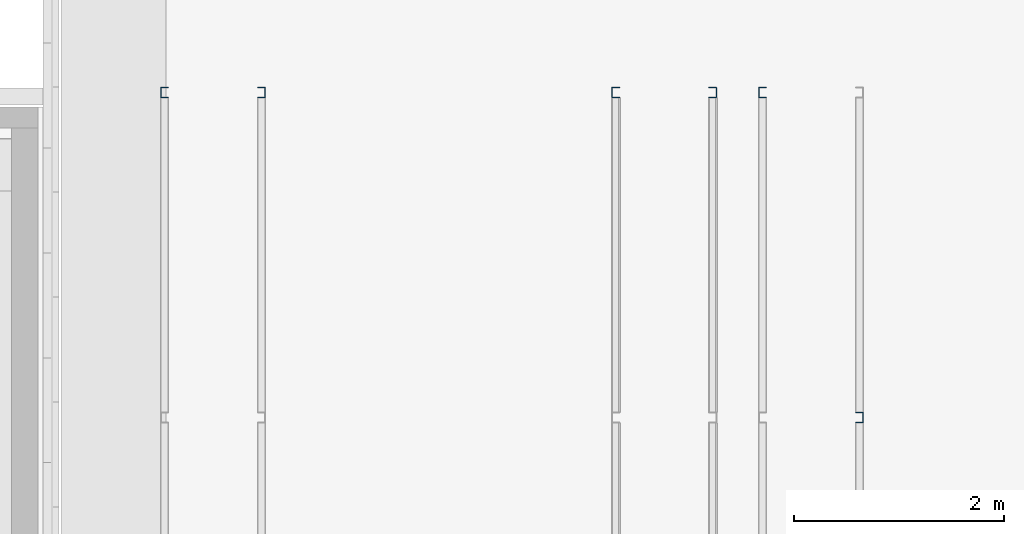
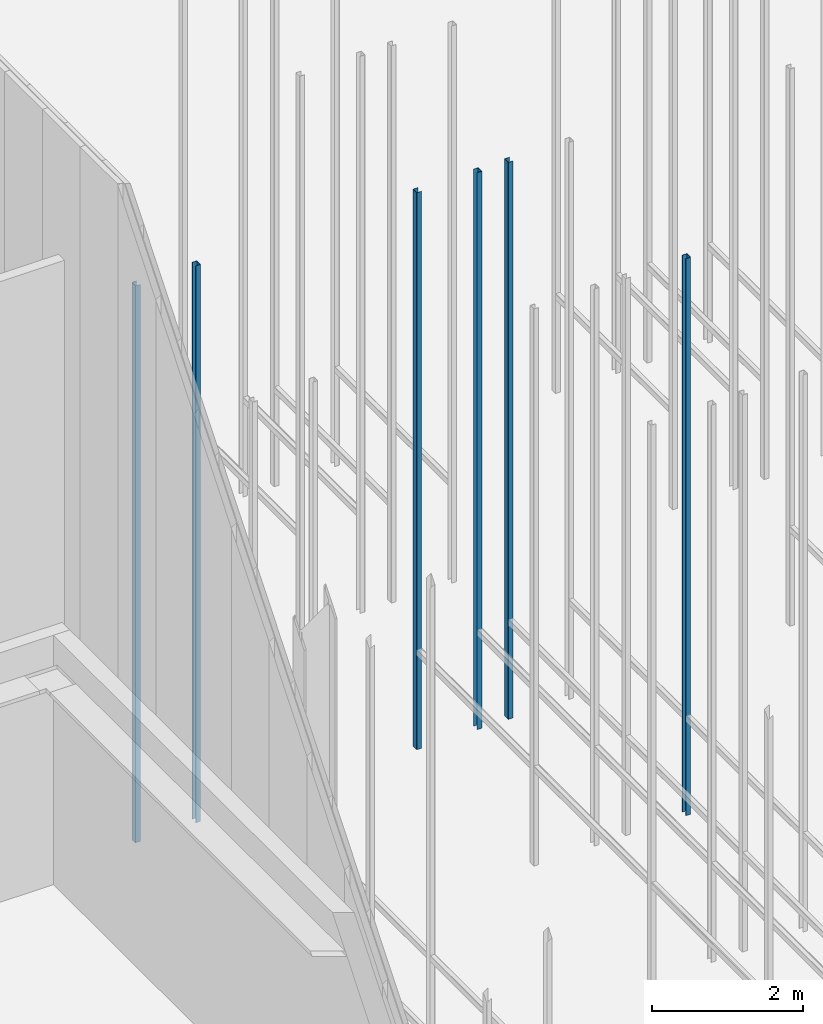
# One storey, part 22 of 302: 6 columns.
"""IFC2X3 building model written with IfcOpenShell, lengths in metres."""

from ifc_helpers import new_model, entity, si_unit, converted_unit, derived_unit, direction, frame, frame_2d, origin, place, context, subcontext, project, spatial, polyline, circle_curve, parameter, trimmed, segment, composite_curve, outline, extrude, source, transform, mapped, material, type_object, type_shapes, element, save


model = new_model("IFC2X3")

# Units and contexts
model_context = context("Model", 3, precision=1e-05, world=origin(), true_north=direction((6.12303176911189e-17, 1.0)))
body_context = subcontext(model_context, "Body", "Model", "MODEL_VIEW")
ifc_project = project(units=[si_unit("LENGTHUNIT", "METRE"), si_unit("AREAUNIT", "SQUARE_METRE"), si_unit("VOLUMEUNIT", "CUBIC_METRE"), converted_unit("PLANEANGLEUNIT", "DEGREE", entity("IfcRatioMeasure", 0.0174532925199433), si_unit("PLANEANGLEUNIT", "RADIAN"), dimensions=[0, 0, 0, 0, 0, 0, 0]), si_unit("MASSUNIT", "GRAM", prefix="KILO"), derived_unit("MASSDENSITYUNIT", [(si_unit("MASSUNIT", "GRAM", prefix="KILO"), 1), (si_unit("LENGTHUNIT", "METRE"), -3)]), derived_unit("MOMENTOFINERTIAUNIT", [(si_unit("LENGTHUNIT", "METRE"), 4)]), si_unit("TIMEUNIT", "SECOND"), si_unit("FREQUENCYUNIT", "HERTZ"), si_unit("THERMODYNAMICTEMPERATUREUNIT", "DEGREE_CELSIUS"), derived_unit("THERMALTRANSMITTANCEUNIT", [(si_unit("MASSUNIT", "GRAM", prefix="KILO"), 1), (si_unit("THERMODYNAMICTEMPERATUREUNIT", "KELVIN"), -1), (si_unit("TIMEUNIT", "SECOND"), -3)]), derived_unit("VOLUMETRICFLOWRATEUNIT", [(si_unit("LENGTHUNIT", "METRE"), 3), (si_unit("TIMEUNIT", "SECOND"), -1)]), si_unit("ELECTRICCURRENTUNIT", "AMPERE"), si_unit("ELECTRICVOLTAGEUNIT", "VOLT"), si_unit("POWERUNIT", "WATT"), si_unit("FORCEUNIT", "NEWTON", prefix="KILO"), si_unit("ILLUMINANCEUNIT", "LUX"), si_unit("LUMINOUSFLUXUNIT", "LUMEN"), si_unit("LUMINOUSINTENSITYUNIT", "CANDELA"), derived_unit("USERDEFINED", [(si_unit("MASSUNIT", "GRAM", prefix="KILO"), -1), (si_unit("LENGTHUNIT", "METRE"), -2), (si_unit("TIMEUNIT", "SECOND"), 3), (si_unit("LUMINOUSFLUXUNIT", "LUMEN"), 1)]), derived_unit("LINEARVELOCITYUNIT", [(si_unit("LENGTHUNIT", "METRE"), 1), (si_unit("TIMEUNIT", "SECOND"), -1)]), si_unit("PRESSUREUNIT", "PASCAL"), derived_unit("USERDEFINED", [(si_unit("LENGTHUNIT", "METRE"), -2), (si_unit("MASSUNIT", "GRAM", prefix="KILO"), 1), (si_unit("TIMEUNIT", "SECOND"), -2)]), derived_unit("LINEARFORCEUNIT", [(si_unit("MASSUNIT", "GRAM", prefix="KILO"), 1), (si_unit("LENGTHUNIT", "METRE"), 1), (si_unit("TIMEUNIT", "SECOND"), -2), (si_unit("LENGTHUNIT", "METRE"), -1)]), derived_unit("PLANARFORCEUNIT", [(si_unit("MASSUNIT", "GRAM", prefix="KILO"), 1), (si_unit("LENGTHUNIT", "METRE"), 1), (si_unit("TIMEUNIT", "SECOND"), -2), (si_unit("LENGTHUNIT", "METRE"), -2)])], contexts=[model_context])

# Site, building, storey
site_placement = place(None, origin())
site = spatial("IfcSite", under=ifc_project, at=site_placement, Name="Default", CompositionType="ELEMENT")
building_placement = place(site_placement, origin())
building = spatial("IfcBuilding", under=site, at=building_placement, CompositionType="ELEMENT")
storey_placement = place(building_placement, frame((0.0, 0.0, -1.3)))
storey = spatial("IfcBuildingStorey", under=building, at=storey_placement, Name="00_EG", CompositionType="ELEMENT", Elevation=-1.3)

# Columns
ifc_material = material(Name="Metall - Baustahl S235")
column_type_1 = type_object("IfcColumnType", Name="Leichter Stahl Schlossschrauben Stütze:C 100", PredefinedType="COLUMN", material=ifc_material)
shared_shape_1 = source(origin(), body_context, "Body", "SweptSolid", [
    extrude(outline(composite_curve([segment(polyline([(-0.0469749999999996, -0.0499999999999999), (0.0214500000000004, -0.0499999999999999)]), True, "CONTINUOUS"), segment(trimmed(circle_curve(frame_2d((0.0214500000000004, -0.0434249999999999), x_axis=(0.0, -1.0)), 0.00657500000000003), [parameter(0.0)], [parameter(89.9999999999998)], True, "PARAMETER"), True, "CONTINUOUS"), segment(polyline([(0.0280250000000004, -0.0434249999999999), (0.0280250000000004, 0.0434250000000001)]), True, "CONTINUOUS"), segment(trimmed(circle_curve(frame_2d((0.0214500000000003, 0.0434250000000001), x_axis=(1.0, 0.0)), 0.0065750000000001), [parameter(0.0)], [parameter(89.9999999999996)], True, "PARAMETER"), True, "CONTINUOUS"), segment(polyline([(0.0214500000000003, 0.0500000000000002), (-0.0469750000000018, 0.0500000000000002)]), True, "CONTINUOUS"), segment(polyline([(-0.0469750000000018, 0.0500000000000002), (-0.0469750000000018, 0.0450000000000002)]), True, "CONTINUOUS"), segment(polyline([(-0.0469750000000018, 0.0450000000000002), (0.0214500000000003, 0.0450000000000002)]), True, "CONTINUOUS"), segment(trimmed(circle_curve(frame_2d((0.0214500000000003, 0.0434249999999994), x_axis=(0.0, 1.0)), 0.00157500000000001), [parameter(269.999999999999)], [parameter(0.0)], True, "PARAMETER"), False, "CONTINUOUS"), segment(polyline([(0.0230250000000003, 0.0434249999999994), (0.0230250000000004, -0.0434249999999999)]), True, "CONTINUOUS"), segment(trimmed(circle_curve(frame_2d((0.0214500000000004, -0.0434249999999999), x_axis=(1.0, 0.0)), 0.00157500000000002), [parameter(270.0)], [parameter(0.0)], True, "PARAMETER"), False, "CONTINUOUS"), segment(polyline([(0.0214500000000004, -0.0449999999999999), (-0.0469749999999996, -0.0449999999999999)]), True, "CONTINUOUS"), segment(polyline([(-0.0469749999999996, -0.0449999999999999), (-0.0469749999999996, -0.0499999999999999)]), True, "CONTINUOUS")], self_intersect=False)), frame((0.0499999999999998, 0.0280250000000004, -0.0300000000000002), z_axis=(0.0, 0.0, 1.0), x_axis=(0.0, -1.0, 0.0)), (0.0, 0.0, 1.0), 9.0),
])
type_shapes(column_type_1, [shared_shape_1])
for number, where, z_axis, x_axis in (
    (1, (-200.790111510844, 45.748088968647, 1.3), (0.0, 0.0, 1.0), (0.0, -1.0, 0.0)),
    (2, (-202.190111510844, 45.748088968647, 1.3), (0.0, 0.0, 1.0), (0.0, -1.0, 0.0)),
    (3, (-206.490111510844, 45.748088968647, 1.3), (0.0, 0.0, 1.0), (0.0, -1.0, 0.0)),
):
    element("IfcColumn", number, at=place(storey_placement, frame(where, z_axis=z_axis, x_axis=x_axis)), inside=storey, type_object=column_type_1, material=ifc_material, Name="Leichter Stahl Schlossschrauben Stütze:C 100", ObjectType="Leichter Stahl Schlossschrauben Stütze:C 100", context=body_context, shape_type="MappedRepresentation", body=[
        mapped(shared_shape_1, transform((0.0, 0.0, 0.0), scale=1.0)),
    ])
column_type_2 = type_object("IfcColumnType", Name="Leichter Stahl Schlossschrauben Stütze:C 100", PredefinedType="COLUMN", material=ifc_material)
shared_shape_2 = source(origin(), body_context, "Body", "SweptSolid", [
    extrude(outline(composite_curve([segment(polyline([(-0.0214500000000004, -0.0499999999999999), (0.0469749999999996, -0.0499999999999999)]), True, "CONTINUOUS"), segment(polyline([(0.0469749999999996, -0.0499999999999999), (0.0469749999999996, -0.0449999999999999)]), True, "CONTINUOUS"), segment(polyline([(0.0469749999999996, -0.0449999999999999), (-0.0214500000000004, -0.045)]), True, "CONTINUOUS"), segment(trimmed(circle_curve(frame_2d((-0.0214500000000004, -0.043425), x_axis=(0.0, -1.0)), 0.00157500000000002), [parameter(270.0)], [parameter(0.0)], True, "PARAMETER"), False, "CONTINUOUS"), segment(polyline([(-0.0230250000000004, -0.0434249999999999), (-0.0230250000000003, 0.0434249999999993)]), True, "CONTINUOUS"), segment(trimmed(circle_curve(frame_2d((-0.0214500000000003, 0.0434249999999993), x_axis=(-1.0, 0.0)), 0.00157500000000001), [parameter(269.999999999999)], [parameter(0.0)], True, "PARAMETER"), False, "CONTINUOUS"), segment(polyline([(-0.0214500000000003, 0.0450000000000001), (0.0469750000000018, 0.0450000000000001)]), True, "CONTINUOUS"), segment(polyline([(0.0469750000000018, 0.0450000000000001), (0.0469750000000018, 0.0500000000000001)]), True, "CONTINUOUS"), segment(polyline([(0.0469750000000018, 0.0500000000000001), (-0.0214500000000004, 0.0500000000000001)]), True, "CONTINUOUS"), segment(trimmed(circle_curve(frame_2d((-0.0214500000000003, 0.043425), x_axis=(0.0, 1.0)), 0.0065750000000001), [parameter(0.0)], [parameter(89.9999999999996)], True, "PARAMETER"), True, "CONTINUOUS"), segment(polyline([(-0.0280250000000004, 0.043425), (-0.0280250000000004, -0.043425)]), True, "CONTINUOUS"), segment(trimmed(circle_curve(frame_2d((-0.0214500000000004, -0.0434249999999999), x_axis=(-1.0, 0.0)), 0.00657500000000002), [parameter(0.0)], [parameter(89.9999999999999)], True, "PARAMETER"), True, "CONTINUOUS")], self_intersect=False)), frame((0.0499999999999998, -0.0280250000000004, -0.0300000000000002), z_axis=(0.0, 0.0, 1.0), x_axis=(0.0, -1.0, 0.0)), (0.0, 0.0, 1.0), 9.0),
])
type_shapes(column_type_2, [shared_shape_2])
for number, where, z_axis, x_axis in (
    (4, (-199.790111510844, 42.648088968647, 1.3), (0.0, 0.0, 1.0), (0.0, -1.0, 0.0)),
    (5, (-201.190111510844, 45.748088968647, 1.3), (0.0, 0.0, 1.0), (0.0, -1.0, 0.0)),
    (6, (-205.490111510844, 45.748088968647, 1.3), (0.0, 0.0, 1.0), (0.0, -1.0, 0.0)),
):
    element("IfcColumn", number, at=place(storey_placement, frame(where, z_axis=z_axis, x_axis=x_axis)), inside=storey, type_object=column_type_2, material=ifc_material, Name="Leichter Stahl Schlossschrauben Stütze:C 100", ObjectType="Leichter Stahl Schlossschrauben Stütze:C 100", context=body_context, shape_type="MappedRepresentation", body=[
        mapped(shared_shape_2, transform((0.0, 0.0, 0.0), scale=1.0)),
    ])

save(model, "model.ifc")
